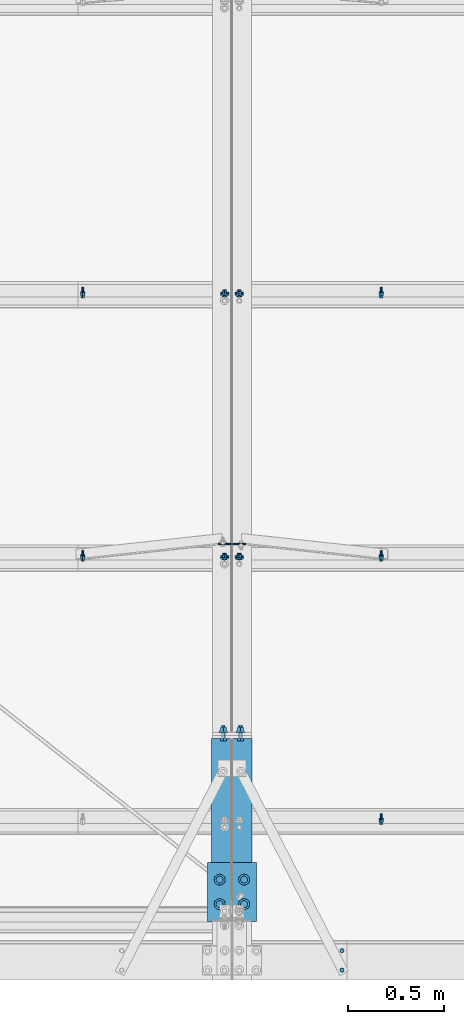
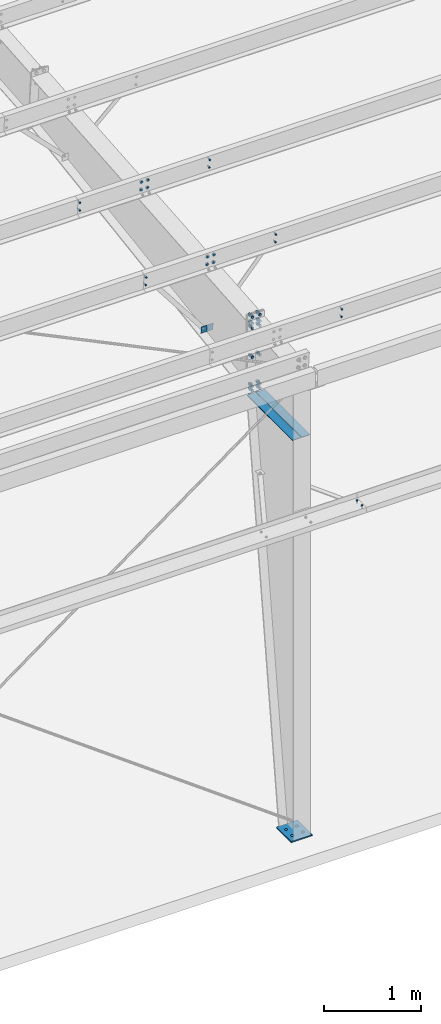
# One storey, part 67 of 185: 14 mechanical fasteners, 5 discrete accessories, 8 elements without a shape of their own.
"""IFC2X3 building model written with IfcOpenShell, lengths in millimetres."""

from ifc_helpers import new_model, si_unit, frame, origin_with_axes, origin_2d_with_axis, place, context, subcontext, project, spatial, polyline, rectangle, circle, outline, extrude, source, transform, mapped, material, type_object, element, aggregate, save


model = new_model("IFC2X3")

# Units and contexts
model_context = context("Model", 3, precision=1e-05, world=origin_with_axes())
body_context = subcontext(model_context, "Body", "Model", "MODEL_VIEW")
ifc_project = project(units=[si_unit("LENGTHUNIT", "METRE", prefix="MILLI"), si_unit("AREAUNIT", "SQUARE_METRE"), si_unit("VOLUMEUNIT", "CUBIC_METRE"), si_unit("MASSUNIT", "GRAM", prefix="KILO"), si_unit("TIMEUNIT", "SECOND"), si_unit("PLANEANGLEUNIT", "RADIAN"), si_unit("SOLIDANGLEUNIT", "STERADIAN"), si_unit("THERMODYNAMICTEMPERATUREUNIT", "DEGREE_CELSIUS"), si_unit("LUMINOUSINTENSITYUNIT", "LUMEN")], contexts=[model_context])

# Site, building, storey
site_placement = place(None, origin_with_axes())
site = spatial("IfcSite", under=ifc_project, at=site_placement, Name="Undefined", CompositionType="ELEMENT")
building_placement = place(site_placement, origin_with_axes())
building = spatial("IfcBuilding", under=site, at=building_placement, Name="Undefined", CompositionType="ELEMENT")
storey_placement = place(building_placement, origin_with_axes())
storey = spatial("IfcBuildingStorey", under=building, at=storey_placement, Name="Undefined", CompositionType="ELEMENT", Elevation=0.0)

# Assembly, discrete accessories
assembly_1_placement = place(storey_placement, origin_with_axes())
assembly_1 = element("IfcElementAssembly", 1, at=assembly_1_placement, inside=storey, Name="Steel Assembly", AssemblyPlace="NOTDEFINED", PredefinedType="RIGID_FRAME")
ifc_material_1 = material(Name="STEEL/55")
discrete_accessory_type_1 = type_object("IfcDiscreteAccessoryType", Name="Stiff")
discrete_accessory_1_placement = place(assembly_1_placement, frame((14913.76875, 312.674, 5067.48165112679), z_axis=(-1.0, 0.0, 0.0), x_axis=(0.0, 1.0, 0.0)))
discrete_accessory_1 = element("IfcDiscreteAccessory", 2, at=discrete_accessory_1_placement, type_object=discrete_accessory_type_1, material=ifc_material_1, Name="Stiff", ObjectType="FL3/8\"X4\"", context=body_context, shape_type="SweptSolid", body=[
    extrude(rectangle(XDim=9.525, YDim=101.6, at=origin_2d_with_axis()), frame((939.799999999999, 0.0, 0.0), z_axis=(-1.0, 0.0, 0.0), x_axis=(0.0, -1.0, 0.0)), (0.0, 0.0, 1.0), 939.8),
])
discrete_accessory_2_placement = place(assembly_1_placement, frame((14804.23125, 312.674, 5067.48165112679), z_axis=(-1.0, 0.0, 0.0), x_axis=(0.0, 1.0, 0.0)))
discrete_accessory_2 = element("IfcDiscreteAccessory", 3, at=discrete_accessory_2_placement, type_object=discrete_accessory_type_1, material=ifc_material_1, Name="Stiff", ObjectType="FL3/8\"X4\"", context=body_context, shape_type="SweptSolid", body=[
    extrude(rectangle(XDim=9.525, YDim=101.6, at=origin_2d_with_axis()), frame((939.799999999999, 0.0, 0.0), z_axis=(-1.0, 0.0, 0.0), x_axis=(0.0, -1.0, 0.0)), (0.0, 0.0, 1.0), 939.8),
])

# Assembly, mechanical fastener
assembly_2_placement = place(storey_placement, origin_with_axes())
assembly_2 = element("IfcElementAssembly", 4, at=assembly_2_placement, inside=storey, Name="Steel Assembly", AssemblyPlace="NOTDEFINED", PredefinedType="RIGID_FRAME")
ifc_material_2 = material(Name="Undefined")
discrete_accessory_type_2 = type_object("IfcDiscreteAccessoryType", Name="Bolt assembly")
shared_shape_1 = source(origin_with_axes(), body_context, "Body", "SweptSolid", [
    extrude(circle(Radius=7.14374971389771, at=origin_2d_with_axis()), frame((0.0, -1.59000001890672, 0.0), z_axis=(0.0, 1.0, 0.0), x_axis=(1.0, 0.0, 0.0)), (0.0, 0.0, 1.0), 3.3),
    extrude(circle(Radius=13.4937496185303, at=origin_2d_with_axis()), frame((0.0, -5.5587500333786, 0.0), z_axis=(0.0, 1.0, 0.0), x_axis=(1.0, 0.0, 0.0)), (0.0, 0.0, 1.0), 4.0),
    extrude(circle(Radius=22.2250003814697, at=origin_2d_with_axis()), frame((0.0, 1.5900000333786, 0.0), z_axis=(0.0, 1.0, 0.0), x_axis=(1.0, 0.0, 0.0)), (0.0, 0.0, 1.0), 7.9),
    extrude(outline(polyline([(12.8316099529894, 0.0), (6.4158049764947, 11.1125001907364), (-6.4158049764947, 11.1125001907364), (-12.8316099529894, 0.0), (-6.4158049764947, -11.1125001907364), (6.4158049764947, -11.1125001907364), (12.8316099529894, 0.0)])), frame((0.0, 9.5275000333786, 0.0), z_axis=(0.0, 1.0, 0.0), x_axis=(1.0, 0.0, 0.0)), (0.0, 0.0, 1.0), 12.3),
])
mechanical_fastener_1_placement = place(assembly_2_placement, frame((14897.1, 3552.58610327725, 6341.07275882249), z_axis=(1.0, 0.0, 0.0), x_axis=(0.0, 0.0830454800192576, -0.996545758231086)))
mechanical_fastener_1 = element("IfcMechanicalFastener", 5, at=mechanical_fastener_1_placement, type_object=discrete_accessory_type_2, material=ifc_material_2, Name="Bolt assembly", NominalDiameter=12.6999998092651, NominalLength=38.0999984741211, context=body_context, shape_type="MappedRepresentation", body=[
    mapped(shared_shape_1, transform((0.0, 0.0, 0.0))),
    mapped(shared_shape_1, transform((101.599998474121, 0.0, 0.0))),
])
aggregate(assembly_2, [mechanical_fastener_1])

assembly_3_placement = place(storey_placement, origin_with_axes())
assembly_3 = element("IfcElementAssembly", 6, at=assembly_3_placement, inside=storey, Name="Steel Assembly", AssemblyPlace="NOTDEFINED", PredefinedType="RIGID_FRAME")
mechanical_fastener_2_placement = place(assembly_3_placement, frame((14820.9, 3552.58610327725, 6341.07275882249), z_axis=(1.0, 0.0, 0.0), x_axis=(0.0, 0.0830454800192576, -0.996545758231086)))
mechanical_fastener_2 = element("IfcMechanicalFastener", 7, at=mechanical_fastener_2_placement, type_object=discrete_accessory_type_2, material=ifc_material_2, Name="Bolt assembly", NominalDiameter=12.6999998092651, NominalLength=38.0999984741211, context=body_context, shape_type="MappedRepresentation", body=[
    mapped(shared_shape_1, transform((0.0, 0.0, 0.0))),
    mapped(shared_shape_1, transform((101.599998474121, 0.0, 0.0))),
])

assembly_4_placement = place(storey_placement, origin_with_axes())
assembly_4 = element("IfcElementAssembly", 8, at=assembly_4_placement, inside=storey, Name="Steel Assembly", AssemblyPlace="NOTDEFINED", PredefinedType="RIGID_FRAME")
mechanical_fastener_3_placement = place(assembly_4_placement, frame((14897.1, 2185.7239412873, 6227.16757842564), z_axis=(1.0, 0.0, 0.0), x_axis=(0.0, 0.0830454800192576, -0.996545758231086)))
mechanical_fastener_3 = element("IfcMechanicalFastener", 9, at=mechanical_fastener_3_placement, type_object=discrete_accessory_type_2, material=ifc_material_2, Name="Bolt assembly", NominalDiameter=12.6999998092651, NominalLength=38.0999984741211, context=body_context, shape_type="MappedRepresentation", body=[
    mapped(shared_shape_1, transform((0.0, 0.0, 0.0))),
    mapped(shared_shape_1, transform((101.599998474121, 0.0, 0.0))),
])
aggregate(assembly_4, [mechanical_fastener_3])

assembly_5_placement = place(storey_placement, origin_with_axes())
assembly_5 = element("IfcElementAssembly", 10, at=assembly_5_placement, inside=storey, Name="Steel Assembly", AssemblyPlace="NOTDEFINED", PredefinedType="RIGID_FRAME")
mechanical_fastener_4_placement = place(assembly_5_placement, frame((14820.9, 2185.7239412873, 6227.16757842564), z_axis=(1.0, 0.0, 0.0), x_axis=(0.0, 0.0830454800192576, -0.996545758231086)))
mechanical_fastener_4 = element("IfcMechanicalFastener", 11, at=mechanical_fastener_4_placement, type_object=discrete_accessory_type_2, material=ifc_material_2, Name="Bolt assembly", NominalDiameter=12.6999998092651, NominalLength=38.0999984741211, context=body_context, shape_type="MappedRepresentation", body=[
    mapped(shared_shape_1, transform((0.0, 0.0, 0.0))),
    mapped(shared_shape_1, transform((101.599998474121, 0.0, 0.0))),
])

# Discrete accessory
discrete_accessory_type_3 = type_object("IfcDiscreteAccessoryType", Name="Base Plate")
discrete_accessory_3_placement = place(assembly_1_placement, frame((14859.0, 304.8, 7.93749999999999), z_axis=(1.0, 0.0, 0.0), x_axis=(0.0, 1.0, 0.0)))
discrete_accessory_3 = element("IfcDiscreteAccessory", 12, at=discrete_accessory_3_placement, type_object=discrete_accessory_type_3, material=ifc_material_1, Name="Base Plate", ObjectType="FL5/8\"X10\"", context=body_context, shape_type="SweptSolid", body=[
    extrude(rectangle(XDim=15.875, YDim=254.0, at=origin_2d_with_axis()), frame((304.909695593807, 0.0, 0.0), z_axis=(-1.0, 0.0, 0.0), x_axis=(0.0, -1.0, 0.0)), (0.0, 0.0, 1.0), 304.9),
])

# Assembly, discrete accessories
assembly_6_placement = place(storey_placement, origin_with_axes())
assembly_6 = element("IfcElementAssembly", 13, at=assembly_6_placement, inside=storey, Name="Steel Assembly", AssemblyPlace="NOTDEFINED", PredefinedType="RIGID_FRAME")
discrete_accessory_type_4 = type_object("IfcDiscreteAccessoryType", Name="FLANGE BRACE FLIP")
discrete_accessory_4_placement = place(assembly_6_placement, frame((14861.381, 2264.17630960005, 5265.17211501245), z_axis=(0.0, -0.0830454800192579, 0.996545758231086), x_axis=(1.0, 0.0, 0.0)))
discrete_accessory_4 = element("IfcDiscreteAccessory", 14, at=discrete_accessory_4_placement, type_object=discrete_accessory_type_4, material=ifc_material_1, Name="FLANGE BRACE FLIP", ObjectType="PL1/8\"X2 3/4\"", context=body_context, shape_type="SweptSolid", body=[
    extrude(rectangle(XDim=3.416, YDim=85.725, at=origin_2d_with_axis()), frame((69.8499999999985, 0.0, 0.0), z_axis=(-1.0, 0.0, 0.0), x_axis=(0.0, -1.0, 0.0)), (0.0, 0.0, 1.0), 69.8),
])
discrete_accessory_5_placement = place(assembly_6_placement, frame((14856.619, 2264.17630960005, 5265.17211501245), z_axis=(0.0, -0.0830454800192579, 0.996545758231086), x_axis=(-1.0, 0.0, 0.0)))
discrete_accessory_5 = element("IfcDiscreteAccessory", 15, at=discrete_accessory_5_placement, type_object=discrete_accessory_type_4, material=ifc_material_1, Name="FLANGE BRACE FLIP", ObjectType="PL1/8\"X2 3/4\"", context=body_context, shape_type="SweptSolid", body=[
    extrude(rectangle(XDim=3.416, YDim=85.725, at=origin_2d_with_axis()), frame((69.8499999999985, 0.0, 0.0), z_axis=(-1.0, 0.0, 0.0), x_axis=(0.0, -1.0, 0.0)), (0.0, 0.0, 1.0), 69.9),
])
aggregate(assembly_6, [discrete_accessory_4, discrete_accessory_5])

# Assembly, mechanical fastener
assembly_7_placement = place(storey_placement, origin_with_axes())
assembly_7 = element("IfcElementAssembly", 16, at=assembly_7_placement, inside=storey, Name="Steel Assembly", AssemblyPlace="NOTDEFINED", PredefinedType="RIGID_FRAME")
shared_shape_2 = source(origin_with_axes(), body_context, "Body", "SweptSolid", [
    extrude(circle(Radius=7.14374971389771, at=origin_2d_with_axis()), frame((0.0, -1.4900000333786, 0.0), z_axis=(0.0, 1.0, 0.0), x_axis=(1.0, 0.0, 0.0)), (0.0, 0.0, 1.0), 3.2),
    extrude(circle(Radius=7.14374971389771, at=origin_2d_with_axis()), frame((0.0, -1.4900000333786, 0.0), z_axis=(0.0, 1.0, 0.0), x_axis=(1.0, 0.0, 0.0)), (0.0, 0.0, 1.0), 3.2),
    extrude(outline(polyline([(10.9985221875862, 0.0), (5.4992610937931, 9.52499961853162), (-5.4992610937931, 9.52499961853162), (-10.9985221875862, 0.0), (-5.4992610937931, -9.52499961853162), (5.4992610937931, -9.52499961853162), (10.9985221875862, 0.0)])), frame((0.0, -11.1149996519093, 0.0), z_axis=(0.0, 1.0, 0.0), x_axis=(1.0, 0.0, 0.0)), (0.0, 0.0, 1.0), 9.5),
    extrude(circle(Radius=6.34999990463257, at=origin_2d_with_axis()), frame((0.0, -1.59000001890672, 0.0), z_axis=(0.0, 1.0, 0.0), x_axis=(1.0, 0.0, 0.0)), (0.0, 0.0, 1.0), 38.1),
    extrude(outline(polyline([(12.8316099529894, 0.0), (6.4158049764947, 11.1125001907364), (-6.4158049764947, 11.1125001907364), (-12.8316099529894, 0.0), (-6.4158049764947, -11.1125001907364), (6.4158049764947, -11.1125001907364), (12.8316099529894, 0.0)])), frame((0.0, 1.5900000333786, 0.0), z_axis=(0.0, 1.0, 0.0), x_axis=(1.0, 0.0, 0.0)), (0.0, 0.0, 1.0), 12.3),
])
mechanical_fastener_5_placement = place(assembly_7_placement, frame((15430.5, 50.8, 4165.6), z_axis=(-1.0, 0.0, 0.0), x_axis=(0.0, 1.0, 0.0)))
mechanical_fastener_5 = element("IfcMechanicalFastener", 17, at=mechanical_fastener_5_placement, type_object=discrete_accessory_type_2, material=ifc_material_2, Name="Bolt assembly", NominalDiameter=12.6999998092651, NominalLength=38.0999984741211, context=body_context, shape_type="MappedRepresentation", body=[
    mapped(shared_shape_2, transform((0.0, 0.0, 0.0))),
    mapped(shared_shape_2, transform((101.599998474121, 0.0, 0.0))),
])
aggregate(assembly_7, [mechanical_fastener_5])

# Mechanical fastener
mechanical_fastener_6_placement = place(assembly_3_placement, frame((15633.7, 3552.58610327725, 6341.07275882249), z_axis=(1.0, 0.0, 0.0), x_axis=(0.0, 0.0830454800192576, -0.996545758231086)))
mechanical_fastener_6 = element("IfcMechanicalFastener", 18, at=mechanical_fastener_6_placement, type_object=discrete_accessory_type_2, material=ifc_material_2, Name="Bolt assembly", NominalDiameter=12.6999998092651, NominalLength=38.0999984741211, context=body_context, shape_type="MappedRepresentation", body=[
    mapped(shared_shape_2, transform((0.0, 0.0, 0.0))),
    mapped(shared_shape_2, transform((101.599998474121, 0.0, 0.0))),
])

mechanical_fastener_7_placement = place(assembly_3_placement, frame((14084.3, 3552.58610327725, 6341.07275882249), z_axis=(1.0, 0.0, 0.0), x_axis=(0.0, 0.0830454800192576, -0.996545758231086)))
mechanical_fastener_7 = element("IfcMechanicalFastener", 19, at=mechanical_fastener_7_placement, type_object=discrete_accessory_type_2, material=ifc_material_2, Name="Bolt assembly", NominalDiameter=12.6999998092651, NominalLength=38.0999984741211, context=body_context, shape_type="MappedRepresentation", body=[
    mapped(shared_shape_2, transform((0.0, 0.0, 0.0))),
    mapped(shared_shape_2, transform((101.599998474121, 0.0, 0.0))),
])

aggregate(assembly_3, [mechanical_fastener_2, mechanical_fastener_6, mechanical_fastener_7])

mechanical_fastener_8_placement = place(assembly_5_placement, frame((15633.7, 2185.7239412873, 6227.16757842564), z_axis=(1.0, 0.0, 0.0), x_axis=(0.0, 0.0830454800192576, -0.996545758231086)))
mechanical_fastener_8 = element("IfcMechanicalFastener", 20, at=mechanical_fastener_8_placement, type_object=discrete_accessory_type_2, material=ifc_material_2, Name="Bolt assembly", NominalDiameter=12.6999998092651, NominalLength=38.0999984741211, context=body_context, shape_type="MappedRepresentation", body=[
    mapped(shared_shape_2, transform((0.0, 0.0, 0.0))),
    mapped(shared_shape_2, transform((101.599998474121, 0.0, 0.0))),
])

mechanical_fastener_9_placement = place(assembly_5_placement, frame((14084.3, 2185.7239412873, 6227.16757842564), z_axis=(1.0, 0.0, 0.0), x_axis=(0.0, 0.0830454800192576, -0.996545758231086)))
mechanical_fastener_9 = element("IfcMechanicalFastener", 21, at=mechanical_fastener_9_placement, type_object=discrete_accessory_type_2, material=ifc_material_2, Name="Bolt assembly", NominalDiameter=12.6999998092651, NominalLength=38.0999984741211, context=body_context, shape_type="MappedRepresentation", body=[
    mapped(shared_shape_2, transform((0.0, 0.0, 0.0))),
    mapped(shared_shape_2, transform((101.599998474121, 0.0, 0.0))),
])

aggregate(assembly_5, [mechanical_fastener_4, mechanical_fastener_8, mechanical_fastener_9])

# Assembly, mechanical fastener
assembly_8_placement = place(storey_placement, origin_with_axes())
assembly_8 = element("IfcElementAssembly", 22, at=assembly_8_placement, inside=storey, Name="Steel Assembly", AssemblyPlace="NOTDEFINED", PredefinedType="RIGID_FRAME")
mechanical_fastener_10_placement = place(assembly_8_placement, frame((15633.7, 818.861779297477, 6113.26239802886), z_axis=(1.0, 0.0, 0.0), x_axis=(0.0, 0.0830454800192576, -0.996545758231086)))
mechanical_fastener_10 = element("IfcMechanicalFastener", 23, at=mechanical_fastener_10_placement, type_object=discrete_accessory_type_2, material=ifc_material_2, Name="Bolt assembly", NominalDiameter=12.6999998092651, NominalLength=38.0999984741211, context=body_context, shape_type="MappedRepresentation", body=[
    mapped(shared_shape_2, transform((0.0, 0.0, 0.0))),
    mapped(shared_shape_2, transform((101.599998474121, 0.0, 0.0))),
])
aggregate(assembly_8, [mechanical_fastener_10])

# Mechanical fastener
shared_shape_3 = source(origin_with_axes(), body_context, "Body", "SweptSolid", [
    extrude(circle(Radius=10.3187494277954, at=origin_2d_with_axis()), frame((0.0, -0.1, 0.0), z_axis=(0.0, 1.0, 0.0), x_axis=(1.0, 0.0, 0.0)), (0.0, 0.0, 1.0), 15.8),
    extrude(circle(Radius=10.3187494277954, at=origin_2d_with_axis()), frame((0.0, -15.775, 0.0), z_axis=(0.0, 1.0, 0.0), x_axis=(1.0, 0.0, 0.0)), (0.0, 0.0, 1.0), 15.9),
    extrude(outline(polyline([(18.3308710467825, 0.0), (9.16543552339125, 15.8750000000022), (-9.16543552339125, 15.8750000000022), (-18.3308710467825, 0.0), (-9.16543552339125, -15.8750000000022), (9.16543552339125, -15.8750000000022), (18.3308710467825, 0.0)])), frame((0.0, -27.78125, 0.0), z_axis=(0.0, 1.0, 0.0), x_axis=(1.0, 0.0, 0.0)), (0.0, 0.0, 1.0), 11.9),
    extrude(circle(Radius=9.52499961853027, at=origin_2d_with_axis()), frame((0.0, -15.8750000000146, 0.0), z_axis=(0.0, 1.0, 0.0), x_axis=(1.0, 0.0, 0.0)), (0.0, 0.0, 1.0), 69.8),
    extrude(circle(Radius=22.2250003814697, at=origin_2d_with_axis()), frame((0.0, 15.7480000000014, 0.0), z_axis=(0.0, 1.0, 0.0), x_axis=(1.0, 0.0, 0.0)), (0.0, 0.0, 1.0), 7.9),
    extrude(outline(polyline([(18.3308710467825, 0.0), (9.16543552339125, 15.8750000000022), (-9.16543552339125, 15.8750000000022), (-18.3308710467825, 0.0), (-9.16543552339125, -15.8750000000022), (9.16543552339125, -15.8750000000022), (18.3308710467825, 0.0)])), frame((0.0, 23.6855000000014, 0.0), z_axis=(0.0, 1.0, 0.0), x_axis=(1.0, 0.0, 0.0)), (0.0, 0.0, 1.0), 19.0),
])
mechanical_fastener_11_placement = place(assembly_1_placement, frame((14859.0, 1268.349, 5531.15865002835), z_axis=(1.0, 0.0, 0.0), x_axis=(0.0, 0.0, -1.0)))
mechanical_fastener_11 = element("IfcMechanicalFastener", 24, at=mechanical_fastener_11_placement, type_object=discrete_accessory_type_2, material=ifc_material_2, Name="Bolt assembly", NominalDiameter=19.0499992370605, NominalLength=69.8499984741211, context=body_context, shape_type="MappedRepresentation", body=[
    mapped(shared_shape_3, transform((0.0, 0.0, -44.4500007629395))),
    mapped(shared_shape_3, transform((0.0, 0.0, 44.4500007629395))),
])

mechanical_fastener_12_placement = place(assembly_1_placement, frame((14859.0, 1268.349, 5024.74615112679), z_axis=(-1.0, 0.0, 0.0), x_axis=(0.0, 0.0, 1.0)))
mechanical_fastener_12 = element("IfcMechanicalFastener", 25, at=mechanical_fastener_12_placement, type_object=discrete_accessory_type_2, material=ifc_material_2, Name="Bolt assembly", NominalDiameter=19.0499992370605, NominalLength=69.8499984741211, context=body_context, shape_type="MappedRepresentation", body=[
    mapped(shared_shape_3, transform((0.0, 0.0, -44.4500007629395))),
    mapped(shared_shape_3, transform((82.5500030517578, 0.0, -44.4500007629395))),
    mapped(shared_shape_3, transform((139.699996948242, 0.0, -44.4500007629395))),
    mapped(shared_shape_3, transform((0.0, 0.0, 44.4500007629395))),
    mapped(shared_shape_3, transform((82.5500030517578, 0.0, 44.4500007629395))),
    mapped(shared_shape_3, transform((139.699996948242, 0.0, 44.4500007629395))),
])

mechanical_fastener_13_placement = place(assembly_1_placement, frame((14859.0, 1268.349, 6037.57115112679), z_axis=(1.0, 0.0, 0.0), x_axis=(0.0, 0.0, -1.0)))
mechanical_fastener_13 = element("IfcMechanicalFastener", 26, at=mechanical_fastener_13_placement, type_object=discrete_accessory_type_2, material=ifc_material_2, Name="Bolt assembly", NominalDiameter=19.0499992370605, NominalLength=69.8499984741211, context=body_context, shape_type="MappedRepresentation", body=[
    mapped(shared_shape_3, transform((0.0, 0.0, -44.4500007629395))),
    mapped(shared_shape_3, transform((82.5500030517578, 0.0, -44.4500007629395))),
    mapped(shared_shape_3, transform((139.699996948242, 0.0, -44.4500007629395))),
    mapped(shared_shape_3, transform((0.0, 0.0, 44.4500007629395))),
    mapped(shared_shape_3, transform((82.5500030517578, 0.0, 44.4500007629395))),
    mapped(shared_shape_3, transform((139.699996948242, 0.0, 44.4500007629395))),
])

ifc_material_3 = material(Name="7990")
shared_shape_4 = source(origin_with_axes(), body_context, "Body", "SweptSolid", [
    extrude(circle(Radius=18.2562503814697, at=origin_2d_with_axis()), frame((0.0, -15.8750000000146, 0.0), z_axis=(0.0, 1.0, 0.0), x_axis=(1.0, 0.0, 0.0)), (0.0, 0.0, 1.0), 16.0),
    extrude(circle(Radius=28.575, at=origin_2d_with_axis()), frame((0.0, 0.0, 0.0), z_axis=(0.0, 1.0, 0.0), x_axis=(1.0, 0.0, 0.0)), (0.0, 0.0, 1.0), 10.5),
    extrude(outline(polyline([(30.4292459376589, 0.0), (15.2146229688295, 26.3525000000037), (-15.2146229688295, 26.3525000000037), (-30.4292459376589, 0.0), (-15.2146229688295, -26.3525000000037), (15.2146229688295, -26.3525000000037), (30.4292459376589, 0.0)])), frame((0.0, 10.4775, 0.0), z_axis=(0.0, 1.0, 0.0), x_axis=(1.0, 0.0, 0.0)), (0.0, 0.0, 1.0), 21.0),
])
mechanical_fastener_14_placement = place(assembly_1_placement, frame((14859.0, 393.700001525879, -1.06581410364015e-14), z_axis=(-1.0, 0.0, 0.0), x_axis=(0.0, 1.0, 0.0)))
mechanical_fastener_14 = element("IfcMechanicalFastener", 27, at=mechanical_fastener_14_placement, type_object=discrete_accessory_type_2, material=ifc_material_3, Name="Bolt assembly", NominalDiameter=31.75, NominalLength=15.875, context=body_context, shape_type="MappedRepresentation", body=[
    mapped(shared_shape_4, transform((0.0, 0.0, -63.5))),
    mapped(shared_shape_4, transform((127.0, 0.0, -63.5))),
    mapped(shared_shape_4, transform((0.0, 0.0, 63.5))),
    mapped(shared_shape_4, transform((127.0, 0.0, 63.5))),
])

aggregate(assembly_1, [mechanical_fastener_11, mechanical_fastener_12, mechanical_fastener_13, mechanical_fastener_14, discrete_accessory_1, discrete_accessory_2, discrete_accessory_3])

save(model, "model.ifc")
